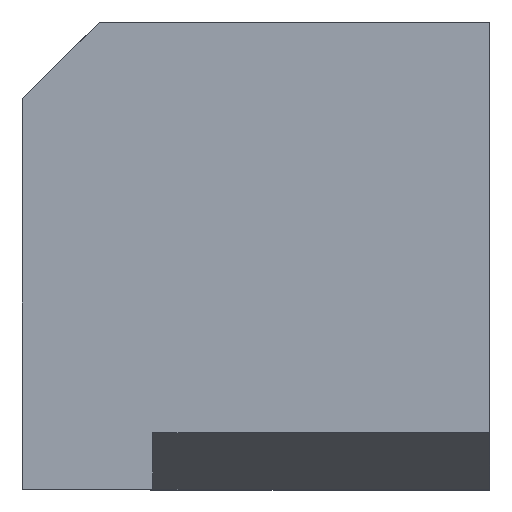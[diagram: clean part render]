
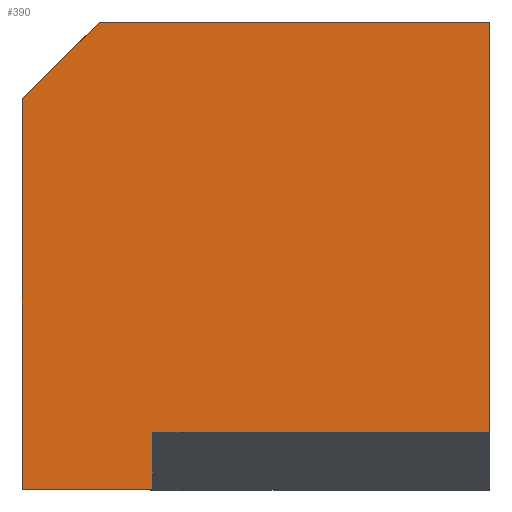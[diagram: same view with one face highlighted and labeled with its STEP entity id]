
A CAD part, top view. The second image highlights one B-rep face of the part: STEP entity #390.
In plain terms, the highlighted planar face has unit normal (0, 0, 1).
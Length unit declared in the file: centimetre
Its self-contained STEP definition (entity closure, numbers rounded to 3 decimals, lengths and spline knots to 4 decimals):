
#47 = CARTESIAN_POINT ( 'NONE',  ( -417.8081, 417.8081, 1000. ) ) ;
#58 = LINE ( 'NONE', #348, #552 ) ;
#65 = EDGE_LOOP ( 'NONE', ( #836, #576, #444, #473, #602, #527, #809 ) ) ;
#124 = DIRECTION ( 'NONE',  ( 0., 0., 1. ) ) ;
#131 = CARTESIAN_POINT ( 'NONE',  ( 0., 0., 1000. ) ) ;
#177 = CARTESIAN_POINT ( 'NONE',  ( 279.4302, 121.2166, 1000. ) ) ;
#184 = CARTESIAN_POINT ( 'NONE',  ( 0., 0., 1000. ) ) ;
#187 = DIRECTION ( 'NONE',  ( -1., 0., 0. ) ) ;
#193 = VECTOR ( 'NONE', #709, 100. ) ;
#201 = PLANE ( 'NONE',  #282 ) ;
#206 = EDGE_CURVE ( 'NONE', #462, #453, #636, .T. ) ;
#253 = LINE ( 'NONE', #47, #536 ) ;
#261 = CARTESIAN_POINT ( 'NONE',  ( 1000., 1000., 1000. ) ) ;
#272 = CARTESIAN_POINT ( 'NONE',  ( 1000., 1000., 1000. ) ) ;
#274 = VERTEX_POINT ( 'NONE', #177 ) ;
#282 = AXIS2_PLACEMENT_3D ( 'NONE', #131, #124, #481 ) ;
#283 = LINE ( 'NONE', #864, #875 ) ;
#292 = CARTESIAN_POINT ( 'NONE',  ( 164.3839, 1000., 1000. ) ) ;
#331 = DIRECTION ( 'NONE',  ( -0.707, -0.707, 0. ) ) ;
#333 = VECTOR ( 'NONE', #645, 100. ) ;
#337 = EDGE_CURVE ( 'NONE', #453, #622, #546, .T. ) ;
#343 = DIRECTION ( 'NONE',  ( 0., -1., 0. ) ) ;
#348 = CARTESIAN_POINT ( 'NONE',  ( 279.4302, 0., 1000. ) ) ;
#368 = VERTEX_POINT ( 'NONE', #821 ) ;
#390 = ADVANCED_FACE ( 'NONE', ( #774 ), #201, .T. ) ;
#444 = ORIENTED_EDGE ( 'NONE', *, *, #337, .T. ) ;
#453 = VERTEX_POINT ( 'NONE', #261 ) ;
#462 = VERTEX_POINT ( 'NONE', #913 ) ;
#473 = ORIENTED_EDGE ( 'NONE', *, *, #849, .T. ) ;
#480 = VECTOR ( 'NONE', #862, 100. ) ;
#481 = DIRECTION ( 'NONE',  ( 1., 0., 0. ) ) ;
#487 = EDGE_CURVE ( 'NONE', #274, #462, #924, .T. ) ;
#496 = CARTESIAN_POINT ( 'NONE',  ( 0., 1000., 1000. ) ) ;
#501 = DIRECTION ( 'NONE',  ( 1., 0., 0. ) ) ;
#527 = ORIENTED_EDGE ( 'NONE', *, *, #706, .T. ) ;
#536 = VECTOR ( 'NONE', #331, 100. ) ;
#546 = LINE ( 'NONE', #670, #897 ) ;
#552 = VECTOR ( 'NONE', #343, 100. ) ;
#570 = CARTESIAN_POINT ( 'NONE',  ( 279.4302, 121.2166, 1000. ) ) ;
#576 = ORIENTED_EDGE ( 'NONE', *, *, #206, .T. ) ;
#602 = ORIENTED_EDGE ( 'NONE', *, *, #692, .T. ) ;
#608 = EDGE_CURVE ( 'NONE', #274, #922, #58, .T. ) ;
#622 = VERTEX_POINT ( 'NONE', #292 ) ;
#636 = LINE ( 'NONE', #272, #193 ) ;
#645 = DIRECTION ( 'NONE',  ( 0., -1., 0. ) ) ;
#646 = CARTESIAN_POINT ( 'NONE',  ( 279.4302, 0., 1000. ) ) ;
#670 = CARTESIAN_POINT ( 'NONE',  ( 0., 1000., 1000. ) ) ;
#692 = EDGE_CURVE ( 'NONE', #368, #739, #707, .T. ) ;
#706 = EDGE_CURVE ( 'NONE', #739, #922, #283, .T. ) ;
#707 = LINE ( 'NONE', #496, #333 ) ;
#709 = DIRECTION ( 'NONE',  ( 0., 1., 0. ) ) ;
#739 = VERTEX_POINT ( 'NONE', #184 ) ;
#774 = FACE_OUTER_BOUND ( 'NONE', #65, .T. ) ;
#809 = ORIENTED_EDGE ( 'NONE', *, *, #608, .F. ) ;
#821 = CARTESIAN_POINT ( 'NONE',  ( 0., 835.6161, 1000. ) ) ;
#836 = ORIENTED_EDGE ( 'NONE', *, *, #487, .T. ) ;
#849 = EDGE_CURVE ( 'NONE', #622, #368, #253, .T. ) ;
#862 = DIRECTION ( 'NONE',  ( 1., 0., 0. ) ) ;
#864 = CARTESIAN_POINT ( 'NONE',  ( 0., 0., 1000. ) ) ;
#875 = VECTOR ( 'NONE', #501, 100. ) ;
#897 = VECTOR ( 'NONE', #187, 100. ) ;
#913 = CARTESIAN_POINT ( 'NONE',  ( 1000., 121.2166, 1000. ) ) ;
#922 = VERTEX_POINT ( 'NONE', #646 ) ;
#924 = LINE ( 'NONE', #570, #480 ) ;
